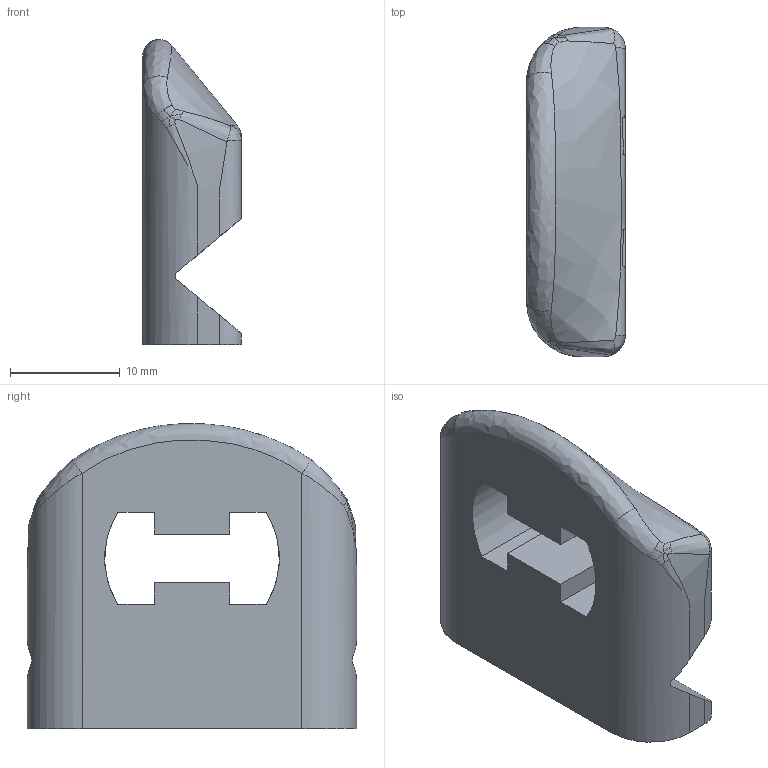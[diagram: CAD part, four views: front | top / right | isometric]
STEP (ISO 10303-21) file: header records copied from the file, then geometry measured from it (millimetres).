
FILE_DESCRIPTION(/* description */ (''),/* implementation_level */ '2;1');
FILE_NAME(/* name */ 'C:/Users/arthu/Desktop/3D/Porte portap/step_files/Frame up.step',/* time_stamp */ '2021-01-11T17:20:01+01:00',/* author */ (''),/* organization */ (''),/* preprocessor_version */ 'ST-DEVELOPER v18.1',/* originating_system */ 'Autodesk Translation Framework v9.7.1.1290',/* authorisation */ '');
FILE_SCHEMA (('AUTOMOTIVE_DESIGN { 1 0 10303 214 3 1 1 }'));
Length unit declared in the file: millimetre
Products named in the file (1): Frame up
Bounding box: 9 x 30 x 27.79 mm (x, y, z)
Volume: 4126.7 mm3; surface area: 2558.1 mm2
Topology: 1 solids, 1 shells, 55 faces, 156 edges, 100 vertices
Faces by surface type: bspline 27, plane 20, cylinder 8
Entity records: 3344 total; most frequent: CARTESIAN_POINT 2057, ORIENTED_EDGE 308, DIRECTION 184, EDGE_CURVE 154, VERTEX_POINT 100, AXIS2_PLACEMENT_3D 63, B_SPLINE_CURVE_WITH_KNOTS 62, LINE 58
